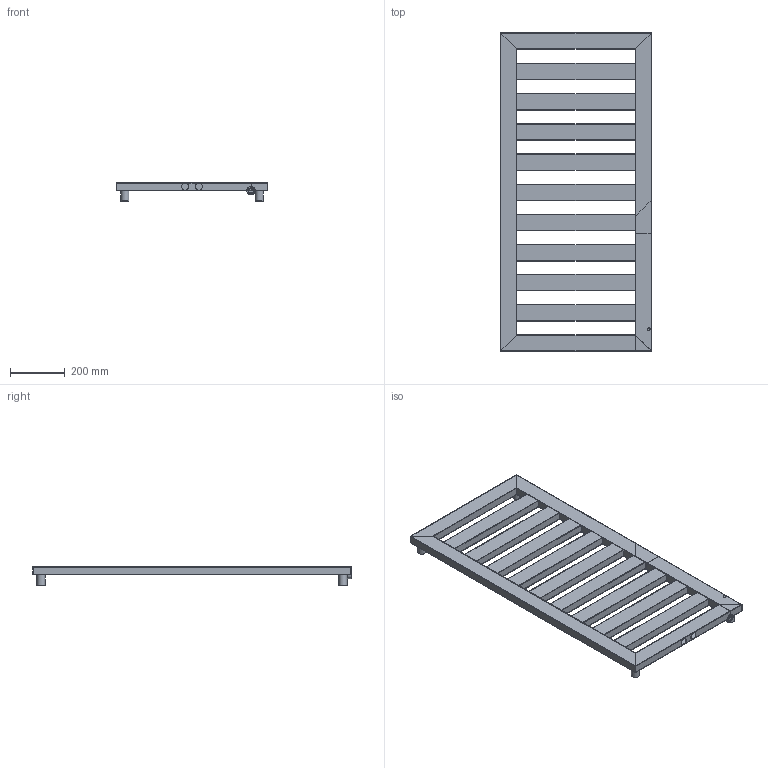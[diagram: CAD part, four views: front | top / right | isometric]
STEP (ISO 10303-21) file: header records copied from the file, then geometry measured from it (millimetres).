
FILE_DESCRIPTION( ( 'Unknown' ), '1' );
FILE_NAME( 'D:/Alplast sp. j/Witryna zespoBu - Projekty/Archiwum/Grzejniki Archiwum/Projekty/DESIGN PROGRAM/GRZEJNIK ROD/ROD 2.stp', 'Unknown', ( 'Unknown' ), ( 'Unknown' ), 'PSStep 10.1', 'Unknown', ' ' );
FILE_SCHEMA( ( 'AUTOMOTIVE_DESIGN { 1 0 10303 214 1 1 1 1 }' ) );
Length unit declared in the file: millimetre
Products named in the file (22): Assem1; kana³ pionowy  60x10   L1160; kana³ pionowy  60x10   L1160-oa0; kana³ poziomy    górny  60x10   L550; kana³ poziomy    dolny  60x10   L550; kana³ poziomu  60x10   L430; kana³ poziomu  60x10   L430-oa1; kana³ poziomu  60x10   L430-oa2; kana³ poziomu  60x10   L430-oa3; kana³ poziomu  60x10   L430-oa4; kana³ poziomu  60x10   L430-oa5; kana³ poziomu  60x10   L430-oa6; kana³ poziomu  60x10   L430-oa7; kana³ poziomu  60x10   L430-oa8; sworzen wieszaka; sworzen wieszaka-oa9; sworzen wieszaka-oa10; sworzen wieszaka-oa11; tuleja wieszaka; tuleja wieszaka-oa12; tuleja wieszaka-oa13; tuleja wieszaka-oa14
Bounding box: 550 x 1160 x 70.04 mm (x, y, z)
Volume: 3840422.9 mm3; surface area: 4926744.2 mm2
Topology: 42 solids, 42 shells, 646 faces, 1748 edges, 1186 vertices
Faces by surface type: plane 332, cylinder 290, cone 16, bspline 8
Full cylindrical faces by diameter (mm): 4.917 x8, 10 x2, 20 x80, 22 x8, 25 x4, 30 x8
Entity records: 13305 total; most frequent: CARTESIAN_POINT 2309, DIRECTION 1698, ORIENTED_EDGE 1528, EDGE_CURVE 764, AXIS2_PLACEMENT_3D 631, VERTEX_POINT 550, EDGE_LOOP 510, LINE 436
